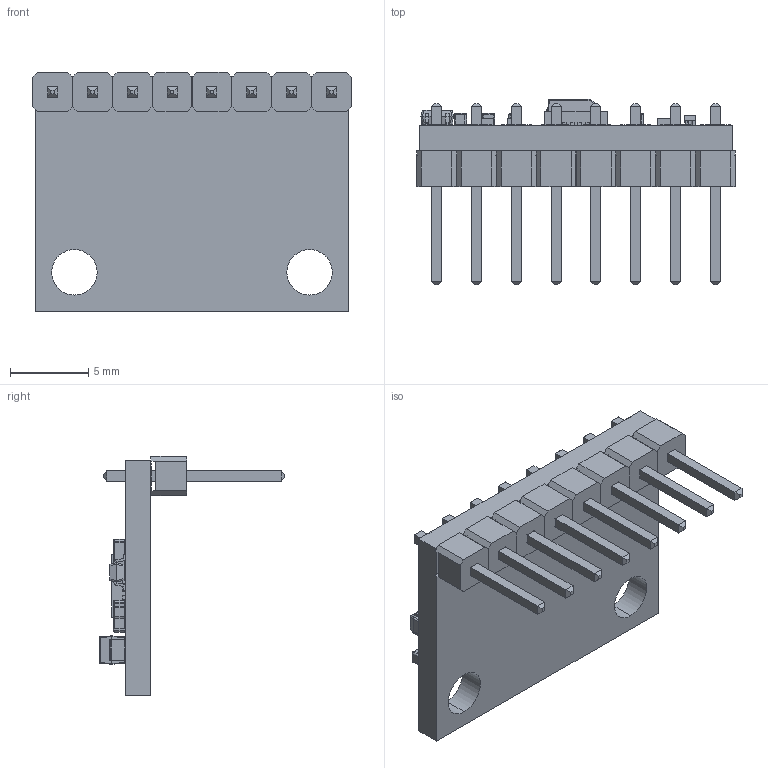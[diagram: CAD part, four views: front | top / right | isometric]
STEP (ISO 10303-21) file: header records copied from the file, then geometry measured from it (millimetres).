
FILE_DESCRIPTION (( 'STEP AP214' ), '1' );
FILE_NAME ('21B7429F-4FD1-473A-AF31-9F87EF784AA5.STEP', '2023-03-25T05:58:41', ( '' ), ( '' ), 'SwSTEP 2.0', 'SolidWorks 2022', '' );
FILE_SCHEMA (( 'AUTOMOTIVE_DESIGN' ));
Length unit declared in the file: millimetre
Products named in the file (1): 21B7429F-4FD1-473A-AF31-9F87EF784AA5
Bounding box: 20.32 x 11.82 x 15.24 mm (x, y, z)
Volume: 615.5 mm3; surface area: 1478.5 mm2
Topology: 49 solids, 49 shells, 2582 faces, 6504 edges, 4041 vertices
Faces by surface type: plane 1082, bspline 1080, cylinder 414, sphere 6
Entity records: 124730 total; most frequent: CARTESIAN_POINT 42134, ORIENTED_EDGE 12772, DIRECTION 7766, EDGE_CURVE 6386, VERTEX_POINT 4041, VECTOR 3700, LINE 3700, EDGE_LOOP 2757
